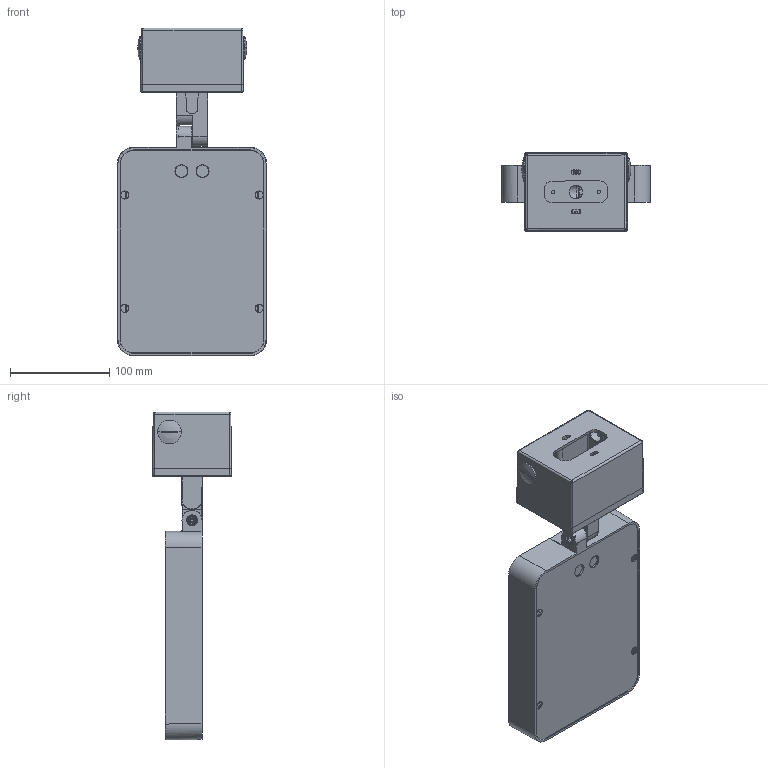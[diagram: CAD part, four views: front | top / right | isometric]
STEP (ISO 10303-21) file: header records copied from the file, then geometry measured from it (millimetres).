
FILE_DESCRIPTION((''),'2;1');
FILE_NAME('TAG210-COB-CITIZEN_SW0002','2025-07-29T08:46:26',('Piccioli'),(''),'CREO PARAMETRIC BY PTC INC, 2025010','CREO PARAMETRIC BY PTC INC, 2025010','');
FILE_SCHEMA(('CONFIG_CONTROL_DESIGN'));
Products named in the file (1): TAG210-COB-CITIZEN_SW0002
Bounding box: 150 x 79.26 x 330 mm (x, y, z)
Surface area: 293989.1 mm2 (no closed solid volume)
Topology: 0 solids, 104 shells, 994 faces, 4352 edges, 3384 vertices
Faces by surface type: plane 295, cylinder 293, cone 170, bspline 113, torus 112, sphere 11
Entity records: 65471 total; most frequent: CARTESIAN_POINT 32342, DIRECTION 6530, ORIENTED_EDGE 5943, EDGE_CURVE 4348, VERTEX_POINT 3384, VECTOR 2242, LINE 2242, AXIS2_PLACEMENT_3D 2144
